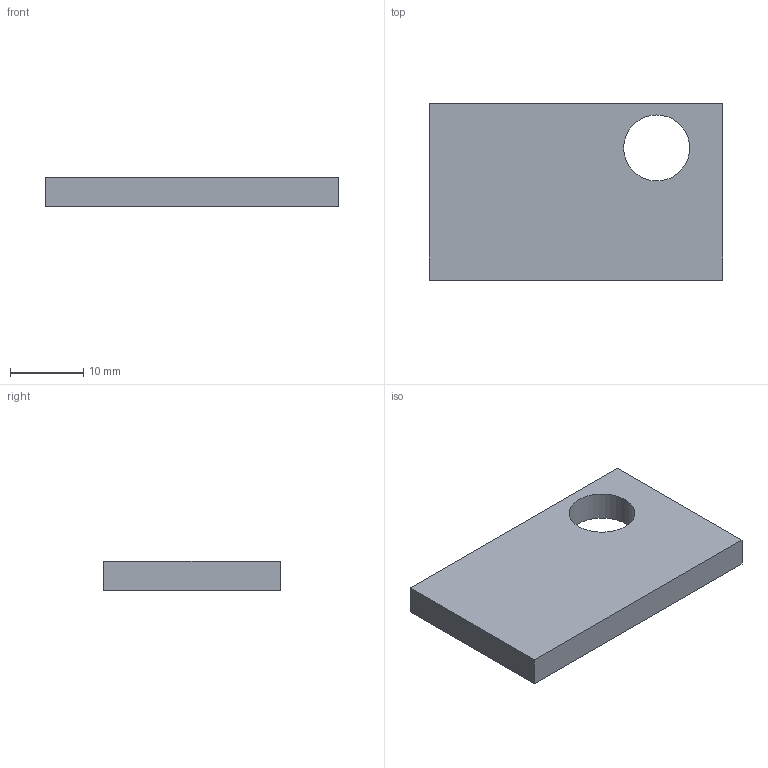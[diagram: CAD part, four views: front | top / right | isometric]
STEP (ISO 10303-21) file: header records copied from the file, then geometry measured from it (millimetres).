
FILE_DESCRIPTION(('FreeCAD Model'),'2;1');
FILE_NAME('Open CASCADE Shape Model','2026-10-31T13:49:49',('FreeCAD'),( 'FreeCAD'),'Open CASCADE STEP processor 7.8','FreeCAD','Unknown');
FILE_SCHEMA(('AUTOMOTIVE_DESIGN { 1 0 10303 214 1 1 1 1 }'));
Length unit declared in the file: millimetre
Products named in the file (1): Open CASCADE STEP translator 7.8 20
Bounding box: 40 x 24 x 4 mm (x, y, z)
Volume: 3585.5 mm3; surface area: 2417.9 mm2
Topology: 1 solids, 1 shells, 7 faces, 15 edges, 10 vertices
Faces by surface type: plane 6, cylinder 1
Full cylindrical faces by diameter (mm): 9 x1
Entity records: 205 total; most frequent: CARTESIAN_POINT 33, DIRECTION 33, ORIENTED_EDGE 30, EDGE_CURVE 15, LINE 13, VECTOR 13, AXIS2_PLACEMENT_3D 10, VERTEX_POINT 10
